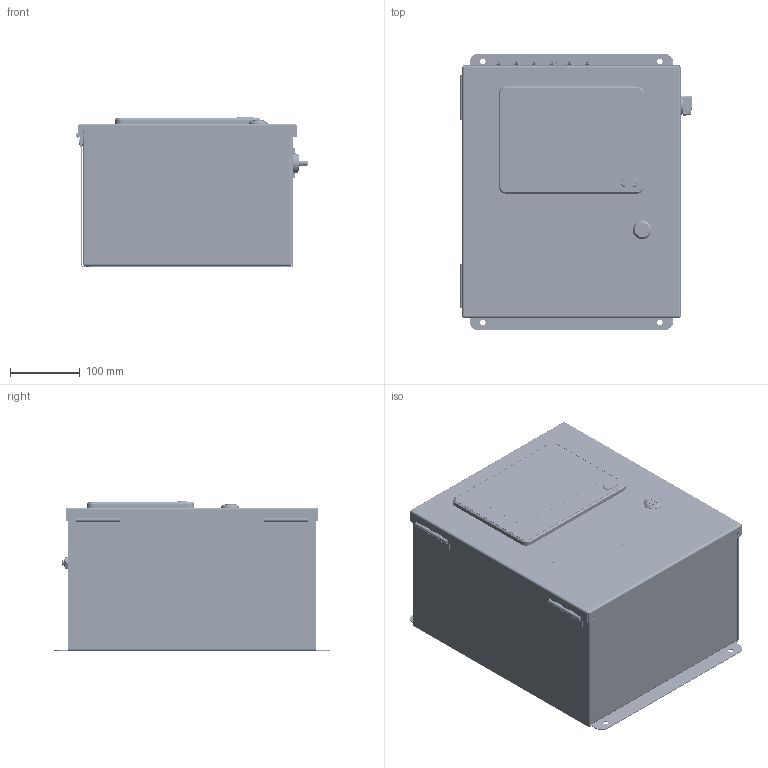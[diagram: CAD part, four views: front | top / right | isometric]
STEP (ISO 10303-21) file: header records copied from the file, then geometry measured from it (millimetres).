
FILE_DESCRIPTION(/* description */ (''),/* implementation_level */ '2;1');
FILE_NAME(/* name */ 'C:\Vault Local\Designs\CAD\Manufacturing\ECS Products\AVC-1 AdvancedIQ Vent Controller\Export\AVC-1.stp',/* time_stamp */ '2020-08-07T10:54:09-05:00',/* author */ ('myoung'),/* organization */ (''),/* preprocessor_version */ 'ST-DEVELOPER v18',/* originating_system */ 'Autodesk Inventor 2020',/* authorisation */ '');
FILE_SCHEMA (('AUTOMOTIVE_DESIGN { 1 0 10303 214 3 1 1 }'));
Products named in the file (1): AVC-1_Shrinkwrap_1
Bounding box: 333.45 x 397 x 215.79 mm (x, y, z)
Volume: 872236 mm3; surface area: 1324916.6 mm2
Topology: 5 solids, 190 shells, 3704 faces, 13355 edges, 9697 vertices
Faces by surface type: plane 1980, cylinder 1058, bspline 284, cone 179, torus 135, sphere 68
Full cylindrical faces by diameter (mm): 1.2 x9, 2 x4, 2.286 x4, 3 x6, 3.175 x2, 3.242 x8, 3.5 x2, 3.8 x9, 3.969 x12, 5.156 x4, 5.2 x8, 5.47 x12, 6.35 x4, 6.553 x2, 6.6 x2, 7 x8, 7.2 x2, 7.95 x8, 8.2 x12, 8.458 x4, 12.7 x87, 20.4 x1, 21.9 x2, 22.2 x2, 22.225 x1, 22.352 x1, 23.4 x1, 23.6 x1, 26.987 x1, 28 x1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
Entity records: 202783 total; most frequent: CARTESIAN_POINT 90739, ORIENTED_EDGE 21937, DIRECTION 21234, EDGE_CURVE 13353, VERTEX_POINT 9697, LINE 7482, VECTOR 7482, AXIS2_PLACEMENT_3D 6876
